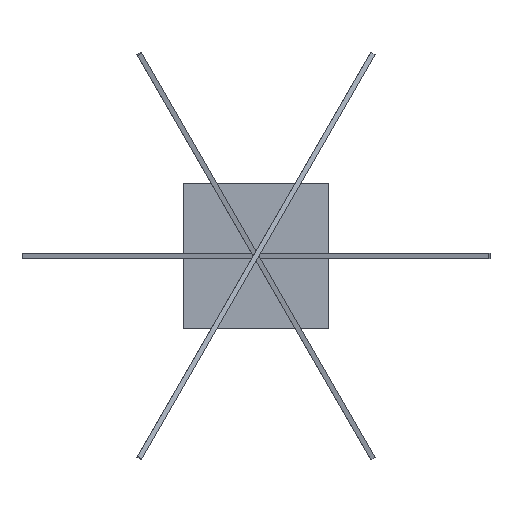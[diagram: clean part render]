
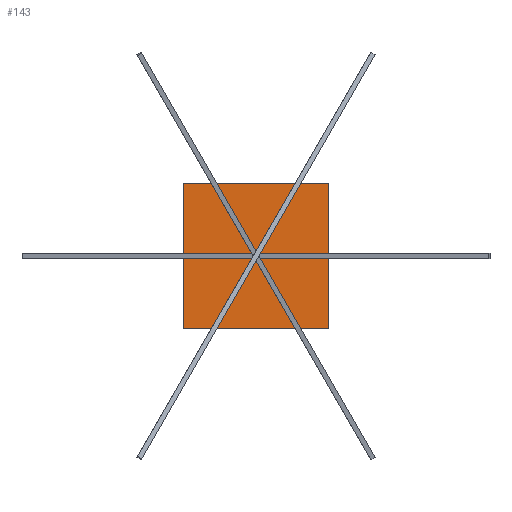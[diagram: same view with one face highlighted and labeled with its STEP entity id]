
A CAD part, front view. The second image highlights one B-rep face of the part: STEP entity #143.
In plain terms, the highlighted planar face has unit normal (0, -1, 0).
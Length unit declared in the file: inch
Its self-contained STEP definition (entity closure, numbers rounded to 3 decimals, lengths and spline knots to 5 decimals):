
#14 = VERTEX_POINT ( 'NONE', #237 ) ;
#56 = VERTEX_POINT ( 'NONE', #534 ) ;
#60 = EDGE_CURVE ( 'NONE', #1551, #626, #1427, .T. ) ;
#74 = CARTESIAN_POINT ( 'NONE',  ( -6., 0., -0.2 ) ) ;
#79 = EDGE_LOOP ( 'NONE', ( #1176, #151, #739, #962 ) ) ;
#80 = DIRECTION ( 'NONE',  ( 0., -1., 0. ) ) ;
#88 = EDGE_LOOP ( 'NONE', ( #391, #703 ) ) ;
#95 = VECTOR ( 'NONE', #1466, 39.37008 ) ;
#103 = EDGE_CURVE ( 'NONE', #1076, #946, #142, .T. ) ;
#142 = LINE ( 'NONE', #222, #1889 ) ;
#143 = ADVANCED_FACE ( 'NONE', ( #1591, #1146, #1233, #736, #1841, #654, #455 ), #1876, .T. ) ;
#151 = ORIENTED_EDGE ( 'NONE', *, *, #103, .F. ) ;
#153 = DIRECTION ( 'NONE',  ( 0.866, 0., 0.5 ) ) ;
#154 = CARTESIAN_POINT ( 'NONE',  ( -7.125, 0., 7.125 ) ) ;
#158 = AXIS2_PLACEMENT_3D ( 'NONE', #797, #803, #1690 ) ;
#170 = AXIS2_PLACEMENT_3D ( 'NONE', #359, #1382, #1522 ) ;
#173 = CARTESIAN_POINT ( 'NONE',  ( 3., 0., 5.39615 ) ) ;
#183 = CARTESIAN_POINT ( 'NONE',  ( 7.125, 0., -7.125 ) ) ;
#218 = CARTESIAN_POINT ( 'NONE',  ( 7.125, 0., 7.125 ) ) ;
#222 = CARTESIAN_POINT ( 'NONE',  ( 7.125, 0., -7.125 ) ) ;
#223 = EDGE_CURVE ( 'NONE', #510, #1355, #1339, .T. ) ;
#237 = CARTESIAN_POINT ( 'NONE',  ( 6., 0., 0.2 ) ) ;
#242 = DIRECTION ( 'NONE',  ( 0.866, 0., 0.5 ) ) ;
#244 = DIRECTION ( 'NONE',  ( 1., 0., 0. ) ) ;
#288 = EDGE_CURVE ( 'NONE', #946, #1013, #517, .T. ) ;
#306 = CARTESIAN_POINT ( 'NONE',  ( 6., 0., -0.2 ) ) ;
#319 = VERTEX_POINT ( 'NONE', #1507 ) ;
#321 = EDGE_CURVE ( 'NONE', #1550, #1109, #1271, .T. ) ;
#324 = CARTESIAN_POINT ( 'NONE',  ( -6., 0., 0. ) ) ;
#332 = VERTEX_POINT ( 'NONE', #1811 ) ;
#344 = DIRECTION ( 'NONE',  ( 0., -1., 0. ) ) ;
#347 = ORIENTED_EDGE ( 'NONE', *, *, #1426, .F. ) ;
#350 = ORIENTED_EDGE ( 'NONE', *, *, #439, .F. ) ;
#359 = CARTESIAN_POINT ( 'NONE',  ( 6., 0., 0. ) ) ;
#391 = ORIENTED_EDGE ( 'NONE', *, *, #1113, .F. ) ;
#415 = ORIENTED_EDGE ( 'NONE', *, *, #60, .F. ) ;
#420 = CIRCLE ( 'NONE', #1848, 0.2 ) ;
#422 = CARTESIAN_POINT ( 'NONE',  ( 3., 0., -4.99615 ) ) ;
#439 = EDGE_CURVE ( 'NONE', #626, #1551, #1190, .T. ) ;
#455 = FACE_OUTER_BOUND ( 'NONE', #79, .T. ) ;
#459 = EDGE_CURVE ( 'NONE', #1013, #556, #623, .T. ) ;
#483 = EDGE_LOOP ( 'NONE', ( #645, #1892 ) ) ;
#510 = VERTEX_POINT ( 'NONE', #74 ) ;
#517 = LINE ( 'NONE', #1005, #95 ) ;
#522 = DIRECTION ( 'NONE',  ( 0., -1., 0. ) ) ;
#534 = CARTESIAN_POINT ( 'NONE',  ( -3., 0., 4.99615 ) ) ;
#551 = DIRECTION ( 'NONE',  ( 0., -1., 0. ) ) ;
#553 = DIRECTION ( 'NONE',  ( 0., 0., -1. ) ) ;
#554 = CIRCLE ( 'NONE', #1570, 0.2 ) ;
#556 = VERTEX_POINT ( 'NONE', #218 ) ;
#569 = DIRECTION ( 'NONE',  ( 0.866, 0., 0.5 ) ) ;
#623 = LINE ( 'NONE', #1120, #1171 ) ;
#626 = VERTEX_POINT ( 'NONE', #837 ) ;
#638 = ORIENTED_EDGE ( 'NONE', *, *, #780, .F. ) ;
#645 = ORIENTED_EDGE ( 'NONE', *, *, #1590, .F. ) ;
#654 = FACE_BOUND ( 'NONE', #483, .T. ) ;
#666 = CARTESIAN_POINT ( 'NONE',  ( 7.125, 0., -7.125 ) ) ;
#671 = DIRECTION ( 'NONE',  ( -1., 0., 0. ) ) ;
#679 = EDGE_LOOP ( 'NONE', ( #1457, #1377 ) ) ;
#682 = CARTESIAN_POINT ( 'NONE',  ( -6., 0., 0. ) ) ;
#689 = AXIS2_PLACEMENT_3D ( 'NONE', #1553, #786, #1838 ) ;
#703 = ORIENTED_EDGE ( 'NONE', *, *, #1626, .F. ) ;
#728 = AXIS2_PLACEMENT_3D ( 'NONE', #324, #1184, #1621 ) ;
#736 = FACE_BOUND ( 'NONE', #88, .T. ) ;
#739 = ORIENTED_EDGE ( 'NONE', *, *, #1036, .F. ) ;
#756 = DIRECTION ( 'NONE',  ( -0.866, 0., 0.5 ) ) ;
#780 = EDGE_CURVE ( 'NONE', #1843, #332, #1231, .T. ) ;
#786 = DIRECTION ( 'NONE',  ( 0., -1., 0. ) ) ;
#797 = CARTESIAN_POINT ( 'NONE',  ( -3., 0., -5.19615 ) ) ;
#803 = DIRECTION ( 'NONE',  ( 0., -1., 0. ) ) ;
#827 = CARTESIAN_POINT ( 'NONE',  ( -3., 0., -4.99615 ) ) ;
#837 = CARTESIAN_POINT ( 'NONE',  ( 3., 0., 4.99615 ) ) ;
#843 = LINE ( 'NONE', #183, #1183 ) ;
#869 = CARTESIAN_POINT ( 'NONE',  ( -3., 0., 5.19615 ) ) ;
#927 = CARTESIAN_POINT ( 'NONE',  ( 3., 0., -5.19615 ) ) ;
#942 = CARTESIAN_POINT ( 'NONE',  ( -6., 0., 0.2 ) ) ;
#946 = VERTEX_POINT ( 'NONE', #1813 ) ;
#962 = ORIENTED_EDGE ( 'NONE', *, *, #459, .F. ) ;
#964 = VERTEX_POINT ( 'NONE', #306 ) ;
#992 = AXIS2_PLACEMENT_3D ( 'NONE', #682, #1710, #553 ) ;
#1000 = DIRECTION ( 'NONE',  ( 0., 0., -1. ) ) ;
#1004 = AXIS2_PLACEMENT_3D ( 'NONE', #1200, #344, #756 ) ;
#1005 = CARTESIAN_POINT ( 'NONE',  ( -7.125, 0., -7.125 ) ) ;
#1013 = VERTEX_POINT ( 'NONE', #154 ) ;
#1036 = EDGE_CURVE ( 'NONE', #556, #1076, #843, .T. ) ;
#1047 = EDGE_CURVE ( 'NONE', #1109, #1550, #1863, .T. ) ;
#1072 = CIRCLE ( 'NONE', #170, 0.2 ) ;
#1076 = VERTEX_POINT ( 'NONE', #666 ) ;
#1092 = DIRECTION ( 'NONE',  ( 0., -1., 0. ) ) ;
#1099 = CIRCLE ( 'NONE', #1563, 0.2 ) ;
#1109 = VERTEX_POINT ( 'NONE', #827 ) ;
#1113 = EDGE_CURVE ( 'NONE', #319, #56, #1099, .T. ) ;
#1120 = CARTESIAN_POINT ( 'NONE',  ( 7.125, 0., 7.125 ) ) ;
#1146 = FACE_BOUND ( 'NONE', #679, .T. ) ;
#1171 = VECTOR ( 'NONE', #244, 39.37008 ) ;
#1175 = EDGE_LOOP ( 'NONE', ( #415, #350 ) ) ;
#1176 = ORIENTED_EDGE ( 'NONE', *, *, #288, .F. ) ;
#1183 = VECTOR ( 'NONE', #1772, 39.37008 ) ;
#1184 = DIRECTION ( 'NONE',  ( 0., -1., 0. ) ) ;
#1190 = CIRCLE ( 'NONE', #689, 0.2 ) ;
#1200 = CARTESIAN_POINT ( 'NONE',  ( -3., 0., -5.19615 ) ) ;
#1219 = AXIS2_PLACEMENT_3D ( 'NONE', #1281, #551, #242 ) ;
#1231 = CIRCLE ( 'NONE', #1380, 0.2 ) ;
#1232 = CARTESIAN_POINT ( 'NONE',  ( 3., 0., 5.19615 ) ) ;
#1233 = FACE_BOUND ( 'NONE', #1432, .T. ) ;
#1271 = CIRCLE ( 'NONE', #1004, 0.2 ) ;
#1273 = CARTESIAN_POINT ( 'NONE',  ( 6., 0., 0. ) ) ;
#1281 = CARTESIAN_POINT ( 'NONE',  ( -3., 0., 5.19615 ) ) ;
#1293 = DIRECTION ( 'NONE',  ( 0., -1., 0. ) ) ;
#1318 = DIRECTION ( 'NONE',  ( 0., -1., 0. ) ) ;
#1339 = CIRCLE ( 'NONE', #728, 0.2 ) ;
#1355 = VERTEX_POINT ( 'NONE', #942 ) ;
#1377 = ORIENTED_EDGE ( 'NONE', *, *, #321, .F. ) ;
#1380 = AXIS2_PLACEMENT_3D ( 'NONE', #927, #80, #1516 ) ;
#1382 = DIRECTION ( 'NONE',  ( 0., -1., 0. ) ) ;
#1387 = AXIS2_PLACEMENT_3D ( 'NONE', #1422, #1425, #1000 ) ;
#1396 = CIRCLE ( 'NONE', #992, 0.2 ) ;
#1410 = EDGE_CURVE ( 'NONE', #964, #14, #554, .T. ) ;
#1411 = CIRCLE ( 'NONE', #1219, 0.2 ) ;
#1422 = CARTESIAN_POINT ( 'NONE',  ( 0., 0., 0. ) ) ;
#1425 = DIRECTION ( 'NONE',  ( 0., -1., 0. ) ) ;
#1426 = EDGE_CURVE ( 'NONE', #1355, #510, #1396, .T. ) ;
#1427 = CIRCLE ( 'NONE', #1791, 0.2 ) ;
#1432 = EDGE_LOOP ( 'NONE', ( #638, #1661 ) ) ;
#1434 = EDGE_LOOP ( 'NONE', ( #347, #1814 ) ) ;
#1457 = ORIENTED_EDGE ( 'NONE', *, *, #1047, .F. ) ;
#1466 = DIRECTION ( 'NONE',  ( 0., 0., 1. ) ) ;
#1507 = CARTESIAN_POINT ( 'NONE',  ( -3., 0., 5.39615 ) ) ;
#1516 = DIRECTION ( 'NONE',  ( 0.866, 0., 0.5 ) ) ;
#1522 = DIRECTION ( 'NONE',  ( 0., 0., -1. ) ) ;
#1550 = VERTEX_POINT ( 'NONE', #1619 ) ;
#1551 = VERTEX_POINT ( 'NONE', #173 ) ;
#1553 = CARTESIAN_POINT ( 'NONE',  ( 3., 0., 5.19615 ) ) ;
#1563 = AXIS2_PLACEMENT_3D ( 'NONE', #869, #1318, #153 ) ;
#1570 = AXIS2_PLACEMENT_3D ( 'NONE', #1273, #522, #1677 ) ;
#1590 = EDGE_CURVE ( 'NONE', #14, #964, #1072, .T. ) ;
#1591 = FACE_BOUND ( 'NONE', #1175, .T. ) ;
#1599 = CARTESIAN_POINT ( 'NONE',  ( 3., 0., -5.19615 ) ) ;
#1619 = CARTESIAN_POINT ( 'NONE',  ( -3., 0., -5.39615 ) ) ;
#1621 = DIRECTION ( 'NONE',  ( 0., 0., -1. ) ) ;
#1626 = EDGE_CURVE ( 'NONE', #56, #319, #1411, .T. ) ;
#1661 = ORIENTED_EDGE ( 'NONE', *, *, #1776, .F. ) ;
#1677 = DIRECTION ( 'NONE',  ( 0., 0., -1. ) ) ;
#1690 = DIRECTION ( 'NONE',  ( -0.866, 0., 0.5 ) ) ;
#1710 = DIRECTION ( 'NONE',  ( 0., -1., 0. ) ) ;
#1772 = DIRECTION ( 'NONE',  ( 0., 0., -1. ) ) ;
#1776 = EDGE_CURVE ( 'NONE', #332, #1843, #420, .T. ) ;
#1791 = AXIS2_PLACEMENT_3D ( 'NONE', #1232, #1092, #1835 ) ;
#1811 = CARTESIAN_POINT ( 'NONE',  ( 3., 0., -5.39615 ) ) ;
#1813 = CARTESIAN_POINT ( 'NONE',  ( -7.125, 0., -7.125 ) ) ;
#1814 = ORIENTED_EDGE ( 'NONE', *, *, #223, .F. ) ;
#1835 = DIRECTION ( 'NONE',  ( -0.866, 0., 0.5 ) ) ;
#1838 = DIRECTION ( 'NONE',  ( -0.866, 0., 0.5 ) ) ;
#1841 = FACE_BOUND ( 'NONE', #1434, .T. ) ;
#1843 = VERTEX_POINT ( 'NONE', #422 ) ;
#1848 = AXIS2_PLACEMENT_3D ( 'NONE', #1599, #1293, #569 ) ;
#1863 = CIRCLE ( 'NONE', #158, 0.2 ) ;
#1876 = PLANE ( 'NONE',  #1387 ) ;
#1889 = VECTOR ( 'NONE', #671, 39.37008 ) ;
#1892 = ORIENTED_EDGE ( 'NONE', *, *, #1410, .F. ) ;
